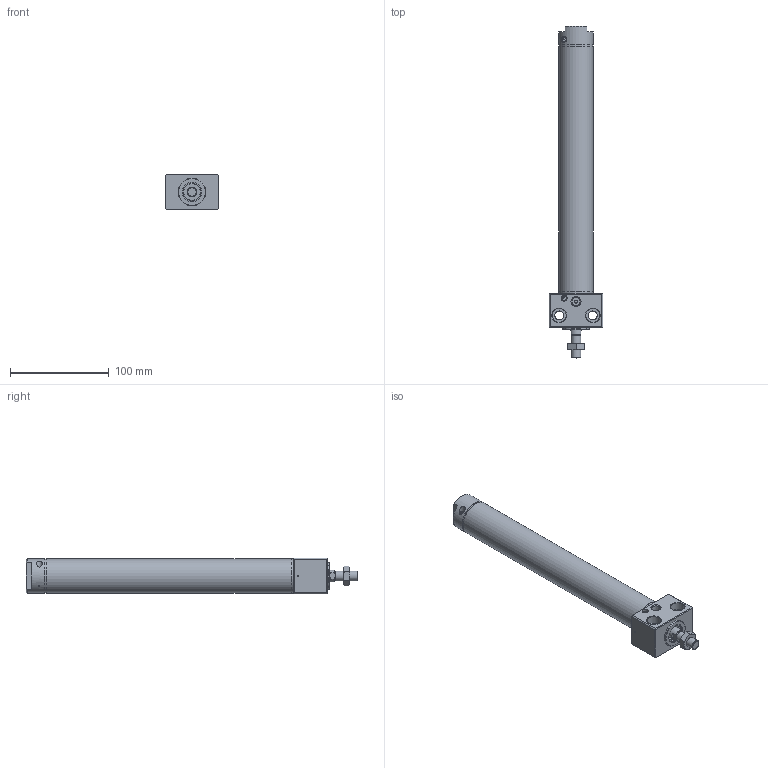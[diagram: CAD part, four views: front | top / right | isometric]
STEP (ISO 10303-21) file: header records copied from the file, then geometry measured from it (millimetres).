
FILE_DESCRIPTION((''),'2;1');
FILE_NAME('I:\3D電子目錄\氣缸\DBS\DBS\DBS30x200-C.stp','2007-10-08T08:43:57',('Administrator'),(''),'Autodesk Inventor 2008','Autodesk Inventor 2008','');
FILE_SCHEMA(('AUTOMOTIVE_DESIGN { 1 0 10303 214 1 1 1 1 }'));
Length unit declared in the file: millimetre
Products named in the file (1): DBS30x200-C
Bounding box: 54 x 335.6 x 36 mm (x, y, z)
Volume: 155391.8 mm3; surface area: 79134.2 mm2
Topology: 8 solids, 8 shells, 207 faces, 423 edges, 258 vertices
Faces by surface type: plane 93, cone 50, cylinder 48, bspline 13, torus 3
Full cylindrical faces by diameter (mm): 1.2 x1, 1.9 x2, 3 x3, 3.3 x2, 4.6 x2, 5 x2, 6 x2, 6.5 x1, 8 x1, 9 x1, 10 x2, 12 x1, 12.5 x1, 14 x1, 16 x1, 17 x2, 20 x2, 21 x3, 24 x2, 28 x3, 28.5 x2, 30 x1, 32.2 x6, 35 x4
Entity records: 5397 total; most frequent: CARTESIAN_POINT 1440, DIRECTION 828, ORIENTED_EDGE 642, AXIS2_PLACEMENT_3D 364, EDGE_LOOP 349, EDGE_CURVE 321, VERTEX_POINT 246, FACE_OUTER_BOUND 207
